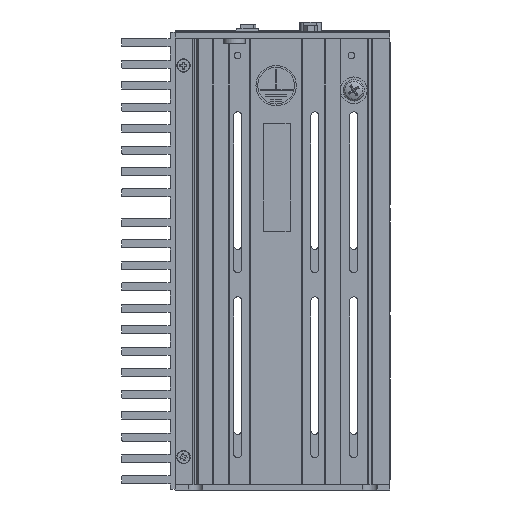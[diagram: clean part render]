
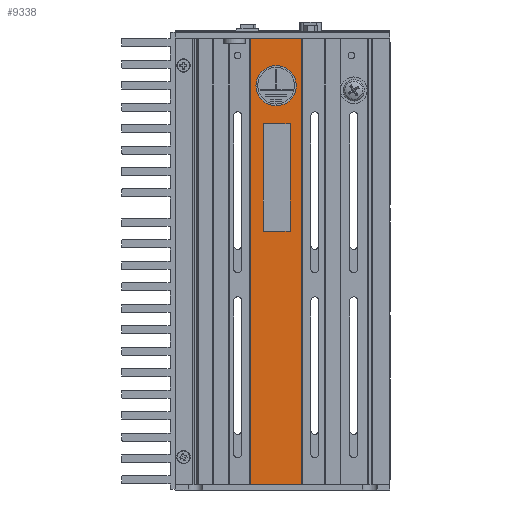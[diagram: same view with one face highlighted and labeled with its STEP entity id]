
A CAD part, front view. The second image highlights one B-rep face of the part: STEP entity #9338.
In plain terms, the highlighted planar face has unit normal (0, -1, 0).
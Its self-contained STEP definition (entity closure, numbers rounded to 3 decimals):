
#3931=CARTESIAN_POINT('',(-33.0,1.,0.0));
#3932=VERTEX_POINT('',#3931);
#3939=CARTESIAN_POINT('',(-52.,1.,0.0));
#3940=VERTEX_POINT('',#3939);
#3941=CARTESIAN_POINT('',(-52.,1.,0.0));
#3942=DIRECTION('',(1.0,0.0,0.0));
#3943=VECTOR('',#3942,19.);
#3944=LINE('',#3941,#3943);
#3945=EDGE_CURVE('',#3940,#3932,#3944,.T.);
#5016=CARTESIAN_POINT('',(-52.,1.,166.5));
#5017=VERTEX_POINT('',#5016);
#5024=CARTESIAN_POINT('',(-33.0,1.,166.5));
#5025=VERTEX_POINT('',#5024);
#5026=CARTESIAN_POINT('',(-33.0,1.,166.5));
#5027=DIRECTION('',(-1.0,0.0,0.0));
#5028=VECTOR('',#5027,19.);
#5029=LINE('',#5026,#5028);
#5030=EDGE_CURVE('',#5025,#5017,#5029,.T.);
#9311=CARTESIAN_POINT('',(-33.0,1.,0.0));
#9312=DIRECTION('',(0.0,0.0,1.0));
#9313=VECTOR('',#9312,166.5);
#9314=LINE('',#9311,#9313);
#9315=EDGE_CURVE('',#3932,#5025,#9314,.T.);
#9322=CARTESIAN_POINT('',(-33.0,1.,0.0));
#9323=DIRECTION('',(0.0,-1.0,0.0));
#9324=DIRECTION('',(0.0,0.0,-1.0));
#9325=AXIS2_PLACEMENT_3D('',#9322,#9323,#9324);
#9326=PLANE('',#9325);
#9327=ORIENTED_EDGE('',*,*,#5030,.T.);
#9328=CARTESIAN_POINT('',(-52.,1.,0.0));
#9329=DIRECTION('',(0.0,0.0,1.0));
#9330=VECTOR('',#9329,166.5);
#9331=LINE('',#9328,#9330);
#9332=EDGE_CURVE('',#3940,#5017,#9331,.T.);
#9333=ORIENTED_EDGE('',*,*,#9332,.F.);
#9334=ORIENTED_EDGE('',*,*,#3945,.T.);
#9335=ORIENTED_EDGE('',*,*,#9315,.T.);
#9336=EDGE_LOOP('',(#9327,#9333,#9334,#9335));
#9337=FACE_OUTER_BOUND('',#9336,.T.);
#9338=ADVANCED_FACE('',(#9337),#9326,.T.);
